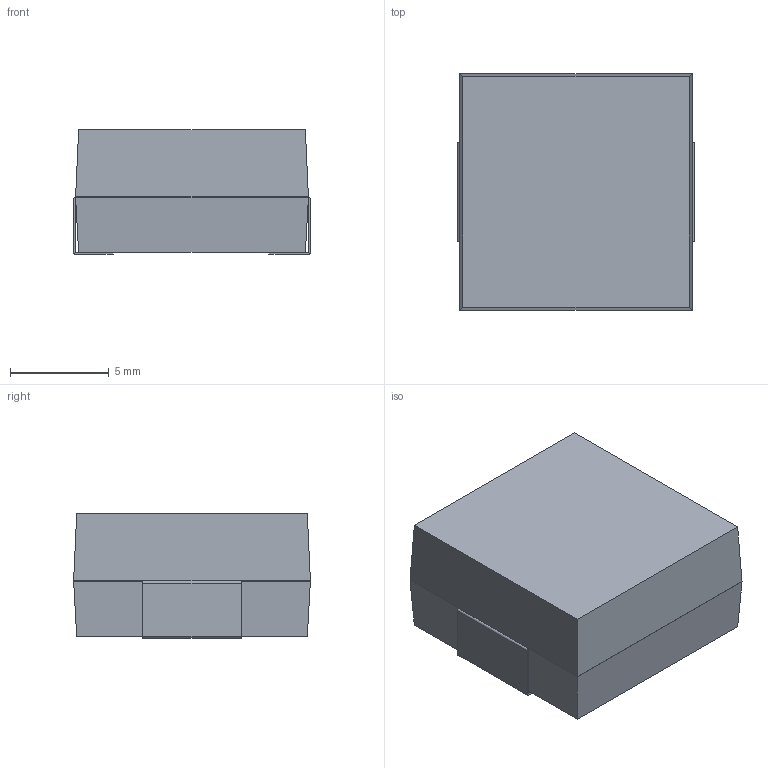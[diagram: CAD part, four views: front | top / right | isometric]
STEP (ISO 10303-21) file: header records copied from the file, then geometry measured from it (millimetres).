
FILE_DESCRIPTION(('FreeCAD Model'),'2;1');
FILE_NAME('/var/www/3D/0T/1272300.1.1.stp','2023-04-07T06:24:24',( 'Author'),(''),'Open CASCADE STEP processor 6.9','FreeCAD','Unknown' );
FILE_SCHEMA(('AUTOMOTIVE_DESIGN { 1 0 10303 214 1 1 1 1 }'));
Length unit declared in the file: millimetre
Products named in the file (4): ASSEMBLY; Chamfer; FilletPin1; FilletPin2
Assembly tree (3 placements, depth 2):
  ASSEMBLY
    Chamfer
    FilletPin1
    FilletPin2
Bounding box: 12 x 12 x 6.3 mm (x, y, z)
Volume: 861.9 mm3; surface area: 697.9 mm2
Topology: 3 solids, 3 shells, 38 faces, 88 edges, 56 vertices
Faces by surface type: plane 34, cylinder 4
Entity records: 2300 total; most frequent: CARTESIAN_POINT 390, DIRECTION 348, LINE 244, VECTOR 244, ORIENTED_EDGE 176, PCURVE 176, DEFINITIONAL_REPRESENTATION 176, EDGE_CURVE 88
